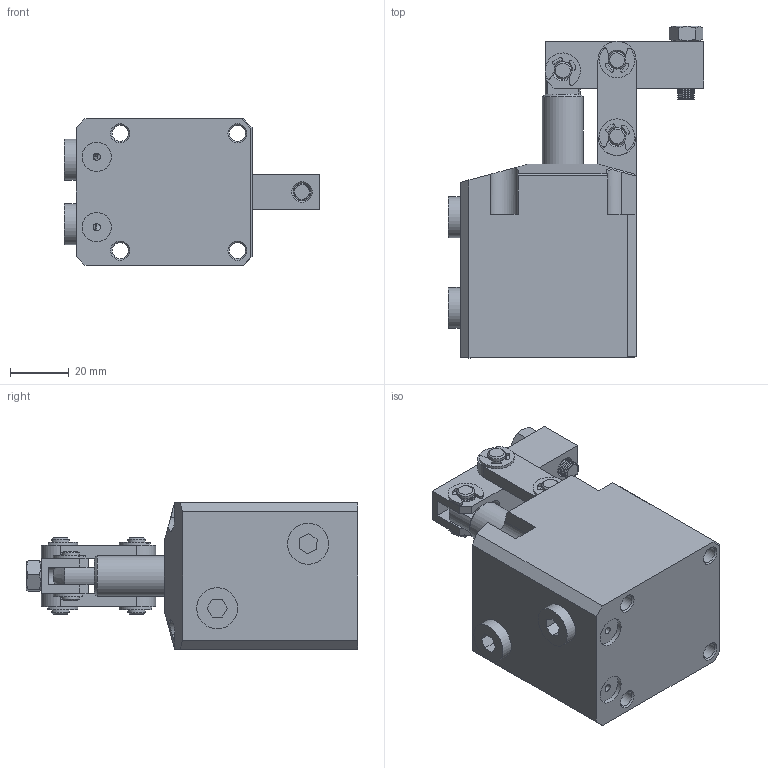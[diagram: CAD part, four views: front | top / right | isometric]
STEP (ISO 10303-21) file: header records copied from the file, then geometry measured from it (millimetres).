
FILE_DESCRIPTION(/* description */ ('STEP AP203'),/* implementation_level */ '2;1');
FILE_NAME(/* name */ 'D:\Vault_2016\Projekty\Clamptek\Hydraulic\CBLU\CBLU-30\STEP\CBLU-30G.stp',/* time_stamp */ '2021-05-06T12:08:53+02:00',/* author */ ('user'),/* organization */ (''),/* preprocessor_version */ 'ST-DEVELOPER v18.1',/* originating_system */ 'Autodesk Inventor 2021',/* authorisation */ '');
FILE_SCHEMA (('AUTOMOTIVE_DESIGN { 1 0 10303 214 3 1 1 }'));
Length unit declared in the file: millimetre
Products named in the file (11): CBLU-30G; ±¾ÌåC_1_1; 30Á¬¸Ë_2; hex nuts, style 1-grades ab gb_GB_FASTENER_NUT_SNAB1 M6-N_1; hexagon socket head cap screws gb_GB_FASTENER_SCREWS_HSHCS M6X25-S_1_
1; ³¤ÏúÖá_1_1; 30¶ÌÏúÖá_2; 30»îÈû¸Ë_1_2_1; 30Ñ¹°å_1; e rings gb_GB_CONNECTING_PIECE_RINGS_HR 6_1_1; ÄÚÁù½Ç¶ÂÍ·×
îÐÂ_1
Assembly tree (18 placements, depth 2):
  CBLU-30G
    ±¾ÌåC_1_1
    30Á¬¸Ë_2  x2
    hex nuts, style 1-grades ab gb_GB_FASTENER_NUT_SNAB1 M6-N_1
    hexagon socket head cap screws gb_GB_FASTENER_SCREWS_HSHCS M6X25-S_1_
1
    ³¤ÏúÖá_1_1  x2
    e rings gb_GB_CONNECTING_PIECE_RINGS_HR 6_1_1  x6
    30¶ÌÏúÖá_2
    30»îÈû¸Ë_1_2_1
    30Ñ¹°å_1
    ÄÚÁù½Ç¶ÂÍ·×
îÐÂ_1  x2
Bounding box: 87 x 113.2 x 50 mm (x, y, z)
Volume: 187338.3 mm3; surface area: 47425.4 mm2
Topology: 19 solids, 19 shells, 473 faces, 1192 edges, 778 vertices
Faces by surface type: plane 176, cylinder 167, cone 122, bspline 8
Full cylindrical faces by diameter (mm): 2 x2, 2.5 x1, 4.9 x3, 4.917 x1, 5 x3, 5.5 x4, 6 x56, 8 x2, 9 x2, 10 x2, 14 x4, 30 x2, 36 x1, 37 x1
Entity records: 11303 total; most frequent: CARTESIAN_POINT 2495, DIRECTION 1902, ORIENTED_EDGE 1688, EDGE_CURVE 844, AXIS2_PLACEMENT_3D 744, VERTEX_POINT 547, LINE 414, VECTOR 414
